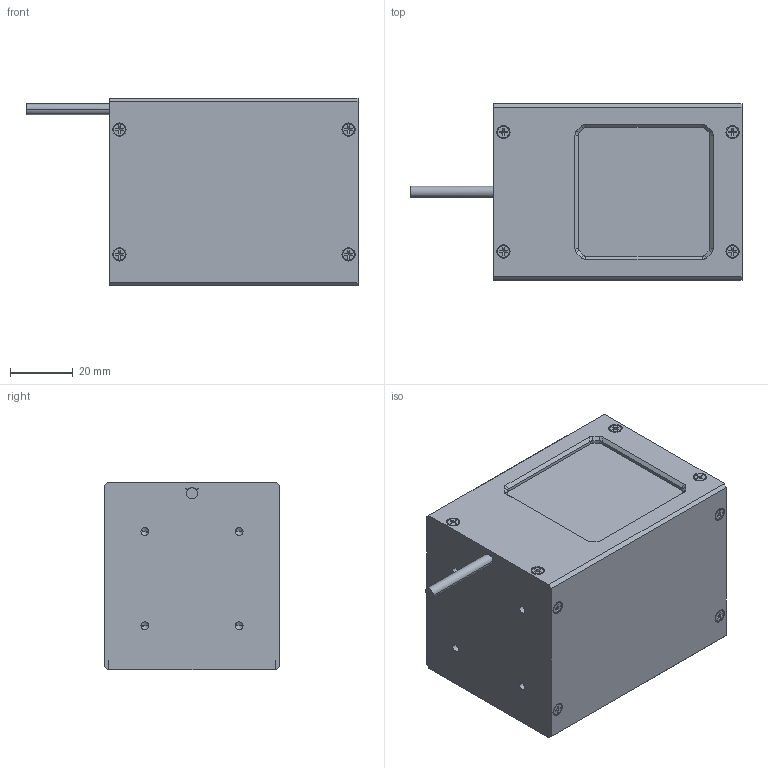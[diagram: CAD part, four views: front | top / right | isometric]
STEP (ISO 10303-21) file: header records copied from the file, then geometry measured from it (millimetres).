
FILE_DESCRIPTION((''),'2;1');
FILE_NAME('PRT0003','2022-10-19T01:32:13',('jiabaodong'),(''),'CREO PARAMETRIC BY PTC INC, 2020044','CREO PARAMETRIC BY PTC INC, 2020044','');
FILE_SCHEMA(('CONFIG_CONTROL_DESIGN'));
Length unit declared in the file: millimetre
Products named in the file (1): PRT0003
Bounding box: 105.74 x 56 x 59.7 mm (x, y, z)
Volume: 80990.4 mm3; surface area: 57626.4 mm2
Topology: 1 solids, 14 shells, 1002 faces, 2383 edges, 1411 vertices
Faces by surface type: plane 577, cylinder 265, cone 112, torus 40, bspline 8
Entity records: 28621 total; most frequent: CARTESIAN_POINT 5660, DIRECTION 4803, ORIENTED_EDGE 4682, EDGE_CURVE 2341, AXIS2_PLACEMENT_3D 1620, VECTOR 1563, LINE 1563, VERTEX_POINT 1411
